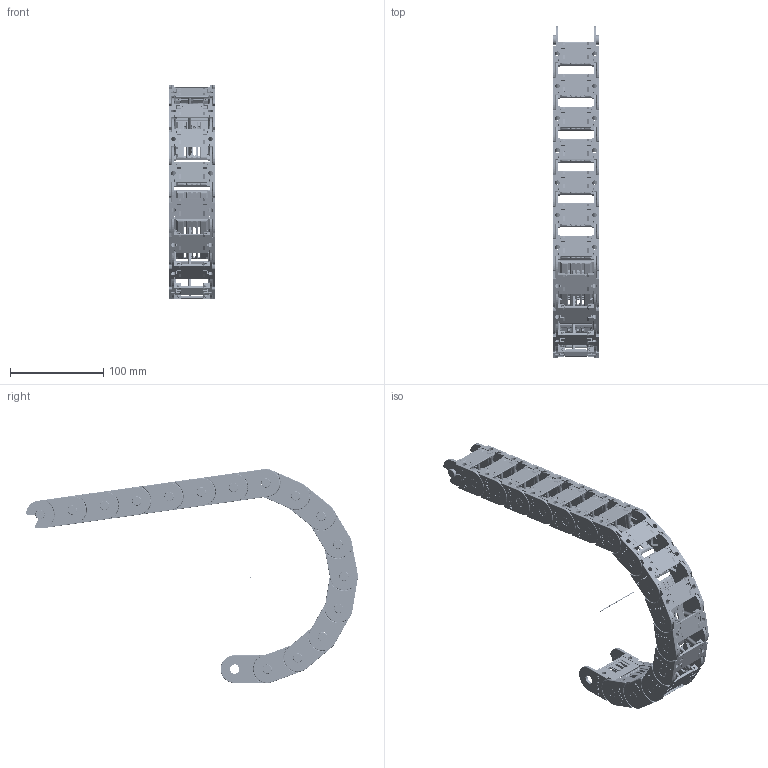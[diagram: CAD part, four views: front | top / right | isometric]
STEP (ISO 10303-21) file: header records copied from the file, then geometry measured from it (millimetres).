
FILE_DESCRIPTION((''),'2;1');
FILE_NAME('C:\Uebbing\PARAMETERKETTEN\KOLIBRI\Kol_30_050_1\KOLIBRI 30_050_1_R100.stp','2012-03-05T08:17:03',('Uebbing'),(''),'Autodesk Inventor 10','Autodesk Inventor 10','');
FILE_SCHEMA(('AUTOMOTIVE_DESIGN { 1 0 10303 214 1 1 1 1 }'));
Length unit declared in the file: millimetre
Products named in the file (6): KOLIBRI 30_050_1_PARAMETRISCH; Achse; Kol_30_050_1; PZ 30 Stecksteg; Kol 30_050_1 Lasche; Kol 30_050_0 Klappsteg
Assembly tree (20 placements, depth 3):
  KOLIBRI 30_050_1_PARAMETRISCH
    Achse
    Kol_30_050_1  x16
      PZ 30 Stecksteg
      Kol 30_050_1 Lasche
      Kol 30_050_0 Klappsteg
Bounding box: 50 x 356.5 x 230 mm (x, y, z)
Volume: 236538 mm3; surface area: 239776.6 mm2
Topology: 49 solids, 49 shells, 15283 faces, 41764 edges, 27363 vertices
Faces by surface type: plane 7698, bspline 3680, cylinder 3025, torus 688, cone 128, sphere 64
Full cylindrical faces by diameter (mm): 1 x1, 1.166 x16, 2.048 x16, 2.8 x128, 5.1 x32, 10 x16, 10.1 x32
Entity records: 33122 total; most frequent: CARTESIAN_POINT 9825, ORIENTED_EDGE 5142, DIRECTION 4202, EDGE_CURVE 2571, VERTEX_POINT 1699, VECTOR 1612, LINE 1612, AXIS2_PLACEMENT_3D 1295
